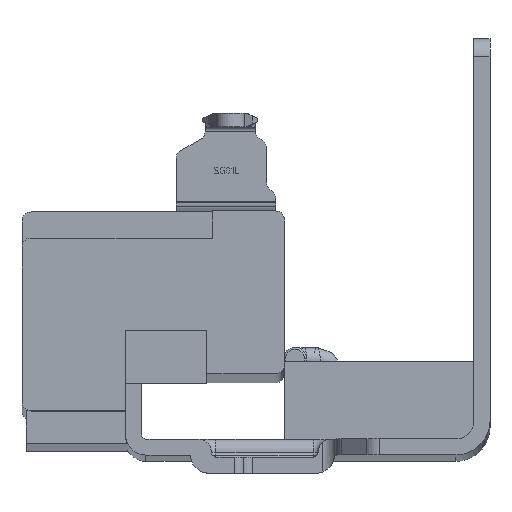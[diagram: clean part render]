
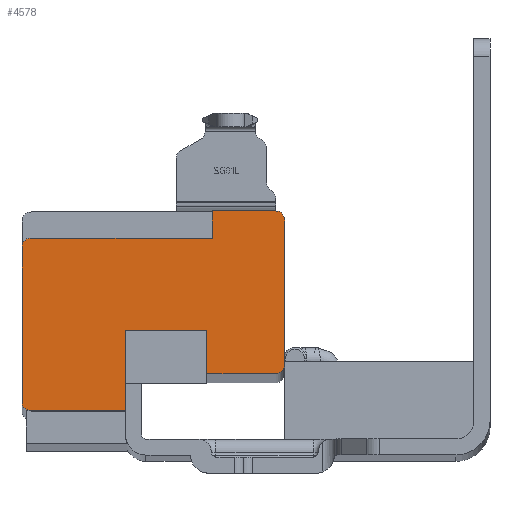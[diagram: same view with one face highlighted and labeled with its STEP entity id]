
A CAD part, top view. The second image highlights one B-rep face of the part: STEP entity #4578.
In plain terms, the highlighted planar face has unit normal (0, 0, 1).
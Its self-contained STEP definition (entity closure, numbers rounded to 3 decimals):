
#35 = CARTESIAN_POINT ( 'NONE',  ( -40.3, -14., -18.7 ) ) ;
#83 = LINE ( 'NONE', #11001, #4710 ) ;
#184 = PLANE ( 'NONE',  #3692 ) ;
#545 = AXIS2_PLACEMENT_3D ( 'NONE', #4239, #10343, #5089 ) ;
#915 = LINE ( 'NONE', #10823, #9924 ) ;
#936 = EDGE_LOOP ( 'NONE', ( #4493, #8964, #4369, #4567, #1368, #9301, #8682, #2632, #9040, #2631, #11012, #4861, #8591, #10641 ) ) ;
#1032 = EDGE_CURVE ( 'NONE', #6561, #10045, #4641, .T. ) ;
#1060 = DIRECTION ( 'NONE',  ( 0., 0., 1. ) ) ;
#1123 = CARTESIAN_POINT ( 'NONE',  ( -50.85, 1., -18.7 ) ) ;
#1155 = DIRECTION ( 'NONE',  ( -1., 0., 0. ) ) ;
#1191 = DIRECTION ( 'NONE',  ( 0., 0., -1. ) ) ;
#1234 = CARTESIAN_POINT ( 'NONE',  ( -43.85, 3., -18.7 ) ) ;
#1299 = DIRECTION ( 'NONE',  ( 0., 0., -1. ) ) ;
#1348 = LINE ( 'NONE', #4203, #10337 ) ;
#1368 = ORIENTED_EDGE ( 'NONE', *, *, #1032, .F. ) ;
#1388 = DIRECTION ( 'NONE',  ( 1., 0., 0. ) ) ;
#1391 = VERTEX_POINT ( 'NONE', #6183 ) ;
#1449 = CARTESIAN_POINT ( 'NONE',  ( -43.85, 4., -18.7 ) ) ;
#1523 = DIRECTION ( 'NONE',  ( 0., -1., 0. ) ) ;
#1632 = CIRCLE ( 'NONE', #2217, 0.97 ) ;
#1871 = VECTOR ( 'NONE', #1523, 1000. ) ;
#1880 = DIRECTION ( 'NONE',  ( 1., 0., 0. ) ) ;
#2116 = EDGE_CURVE ( 'NONE', #10045, #9545, #5969, .T. ) ;
#2141 = LINE ( 'NONE', #4986, #10852 ) ;
#2217 = AXIS2_PLACEMENT_3D ( 'NONE', #6412, #1191, #7290 ) ;
#2459 = DIRECTION ( 'NONE',  ( 0., 1., 0. ) ) ;
#2554 = LINE ( 'NONE', #6996, #9249 ) ;
#2631 = ORIENTED_EDGE ( 'NONE', *, *, #4915, .F. ) ;
#2632 = ORIENTED_EDGE ( 'NONE', *, *, #7860, .F. ) ;
#2669 = LINE ( 'NONE', #5771, #6751 ) ;
#3265 = DIRECTION ( 'NONE',  ( -1., 0., 0. ) ) ;
#3273 = CARTESIAN_POINT ( 'NONE',  ( -71.88, 0., -18.7 ) ) ;
#3406 = VERTEX_POINT ( 'NONE', #9772 ) ;
#3591 = EDGE_CURVE ( 'NONE', #3764, #4365, #3682, .T. ) ;
#3682 = CIRCLE ( 'NONE', #9230, 1. ) ;
#3692 = AXIS2_PLACEMENT_3D ( 'NONE', #7118, #1060, #7143 ) ;
#3764 = VERTEX_POINT ( 'NONE', #9395 ) ;
#3938 = CARTESIAN_POINT ( 'NONE',  ( -71.88, -17.1, -18.7 ) ) ;
#4203 = CARTESIAN_POINT ( 'NONE',  ( -50.85, 1., -18.7 ) ) ;
#4212 = LINE ( 'NONE', #4505, #10906 ) ;
#4239 = CARTESIAN_POINT ( 'NONE',  ( -70.88, -17.1, -18.7 ) ) ;
#4252 = CARTESIAN_POINT ( 'NONE',  ( -70.88, -18.1, -18.7 ) ) ;
#4309 = CIRCLE ( 'NONE', #545, 1. ) ;
#4365 = VERTEX_POINT ( 'NONE', #6815 ) ;
#4369 = ORIENTED_EDGE ( 'NONE', *, *, #6940, .F. ) ;
#4394 = CARTESIAN_POINT ( 'NONE',  ( -50.85, 4., -18.7 ) ) ;
#4404 = CARTESIAN_POINT ( 'NONE',  ( -71.88, 0.03, -18.7 ) ) ;
#4416 = VERTEX_POINT ( 'NONE', #4252 ) ;
#4493 = ORIENTED_EDGE ( 'NONE', *, *, #7250, .F. ) ;
#4505 = CARTESIAN_POINT ( 'NONE',  ( -58.68, -9.185, -18.7 ) ) ;
#4567 = ORIENTED_EDGE ( 'NONE', *, *, #2116, .F. ) ;
#4578 = ADVANCED_FACE ( 'NONE', ( #9658 ), #184, .T. ) ;
#4641 = LINE ( 'NONE', #9852, #10777 ) ;
#4710 = VECTOR ( 'NONE', #5766, 1000. ) ;
#4760 = DIRECTION ( 'NONE',  ( 0., 1., 0. ) ) ;
#4794 = CARTESIAN_POINT ( 'NONE',  ( -43.85, -13., -18.7 ) ) ;
#4806 = AXIS2_PLACEMENT_3D ( 'NONE', #1234, #1299, #1155 ) ;
#4861 = ORIENTED_EDGE ( 'NONE', *, *, #6574, .F. ) ;
#4915 = EDGE_CURVE ( 'NONE', #4416, #5640, #4309, .T. ) ;
#4986 = CARTESIAN_POINT ( 'NONE',  ( -41.05, 1., -18.7 ) ) ;
#5089 = DIRECTION ( 'NONE',  ( -1., 0., 0. ) ) ;
#5293 = EDGE_CURVE ( 'NONE', #6329, #5917, #2141, .T. ) ;
#5322 = DIRECTION ( 'NONE',  ( 1., 0., 0. ) ) ;
#5640 = VERTEX_POINT ( 'NONE', #3938 ) ;
#5666 = DIRECTION ( 'NONE',  ( -1., 0., 0. ) ) ;
#5741 = CARTESIAN_POINT ( 'NONE',  ( -60.45, -9.185, -18.7 ) ) ;
#5766 = DIRECTION ( 'NONE',  ( 0., -1., 0. ) ) ;
#5771 = CARTESIAN_POINT ( 'NONE',  ( -40.3, -18.1, -18.7 ) ) ;
#5917 = VERTEX_POINT ( 'NONE', #7392 ) ;
#5969 = CIRCLE ( 'NONE', #4806, 1. ) ;
#6127 = DIRECTION ( 'NONE',  ( -1., 0., 0. ) ) ;
#6143 = DIRECTION ( 'NONE',  ( 0., -1., 0. ) ) ;
#6183 = CARTESIAN_POINT ( 'NONE',  ( -60.45, -18.1, -18.7 ) ) ;
#6329 = VERTEX_POINT ( 'NONE', #1123 ) ;
#6412 = CARTESIAN_POINT ( 'NONE',  ( -70.91, 0.03, -18.7 ) ) ;
#6561 = VERTEX_POINT ( 'NONE', #4394 ) ;
#6574 = EDGE_CURVE ( 'NONE', #11137, #1391, #2554, .T. ) ;
#6751 = VECTOR ( 'NONE', #1388, 1000. ) ;
#6815 = CARTESIAN_POINT ( 'NONE',  ( -43.85, -14., -18.7 ) ) ;
#6906 = LINE ( 'NONE', #35, #11277 ) ;
#6940 = EDGE_CURVE ( 'NONE', #9545, #3764, #83, .T. ) ;
#6996 = CARTESIAN_POINT ( 'NONE',  ( -60.45, 0., -18.7 ) ) ;
#7021 = EDGE_CURVE ( 'NONE', #7708, #5640, #9097, .T. ) ;
#7118 = CARTESIAN_POINT ( 'NONE',  ( -40.3, 0., -18.7 ) ) ;
#7143 = DIRECTION ( 'NONE',  ( -1., 0., 0. ) ) ;
#7250 = EDGE_CURVE ( 'NONE', #4365, #9502, #6906, .T. ) ;
#7265 = CARTESIAN_POINT ( 'NONE',  ( -51.45, -14., -18.7 ) ) ;
#7290 = DIRECTION ( 'NONE',  ( -1., 0., 0. ) ) ;
#7392 = CARTESIAN_POINT ( 'NONE',  ( -70.91, 1., -18.7 ) ) ;
#7708 = VERTEX_POINT ( 'NONE', #4404 ) ;
#7800 = EDGE_CURVE ( 'NONE', #11137, #3406, #4212, .T. ) ;
#7860 = EDGE_CURVE ( 'NONE', #7708, #5917, #1632, .T. ) ;
#8591 = ORIENTED_EDGE ( 'NONE', *, *, #7800, .T. ) ;
#8682 = ORIENTED_EDGE ( 'NONE', *, *, #5293, .T. ) ;
#8964 = ORIENTED_EDGE ( 'NONE', *, *, #3591, .F. ) ;
#9040 = ORIENTED_EDGE ( 'NONE', *, *, #7021, .T. ) ;
#9097 = LINE ( 'NONE', #3273, #1871 ) ;
#9230 = AXIS2_PLACEMENT_3D ( 'NONE', #4794, #10917, #5666 ) ;
#9249 = VECTOR ( 'NONE', #6143, 1000. ) ;
#9301 = ORIENTED_EDGE ( 'NONE', *, *, #10207, .F. ) ;
#9395 = CARTESIAN_POINT ( 'NONE',  ( -42.85, -13., -18.7 ) ) ;
#9502 = VERTEX_POINT ( 'NONE', #7265 ) ;
#9545 = VERTEX_POINT ( 'NONE', #10768 ) ;
#9658 = FACE_OUTER_BOUND ( 'NONE', #936, .T. ) ;
#9772 = CARTESIAN_POINT ( 'NONE',  ( -51.45, -9.185, -18.7 ) ) ;
#9852 = CARTESIAN_POINT ( 'NONE',  ( -48.65, 4., -18.7 ) ) ;
#9924 = VECTOR ( 'NONE', #4760, 1000. ) ;
#10045 = VERTEX_POINT ( 'NONE', #1449 ) ;
#10207 = EDGE_CURVE ( 'NONE', #6329, #6561, #1348, .T. ) ;
#10337 = VECTOR ( 'NONE', #2459, 1000. ) ;
#10343 = DIRECTION ( 'NONE',  ( 0., 0., -1. ) ) ;
#10568 = EDGE_CURVE ( 'NONE', #9502, #3406, #915, .T. ) ;
#10641 = ORIENTED_EDGE ( 'NONE', *, *, #10568, .F. ) ;
#10768 = CARTESIAN_POINT ( 'NONE',  ( -42.85, 3., -18.7 ) ) ;
#10777 = VECTOR ( 'NONE', #5322, 1000. ) ;
#10823 = CARTESIAN_POINT ( 'NONE',  ( -51.45, 0., -18.7 ) ) ;
#10852 = VECTOR ( 'NONE', #3265, 1000. ) ;
#10906 = VECTOR ( 'NONE', #1880, 1000. ) ;
#10917 = DIRECTION ( 'NONE',  ( 0., 0., -1. ) ) ;
#11001 = CARTESIAN_POINT ( 'NONE',  ( -42.85, 0., -18.7 ) ) ;
#11012 = ORIENTED_EDGE ( 'NONE', *, *, #11248, .T. ) ;
#11137 = VERTEX_POINT ( 'NONE', #5741 ) ;
#11248 = EDGE_CURVE ( 'NONE', #4416, #1391, #2669, .T. ) ;
#11277 = VECTOR ( 'NONE', #6127, 1000. ) ;
